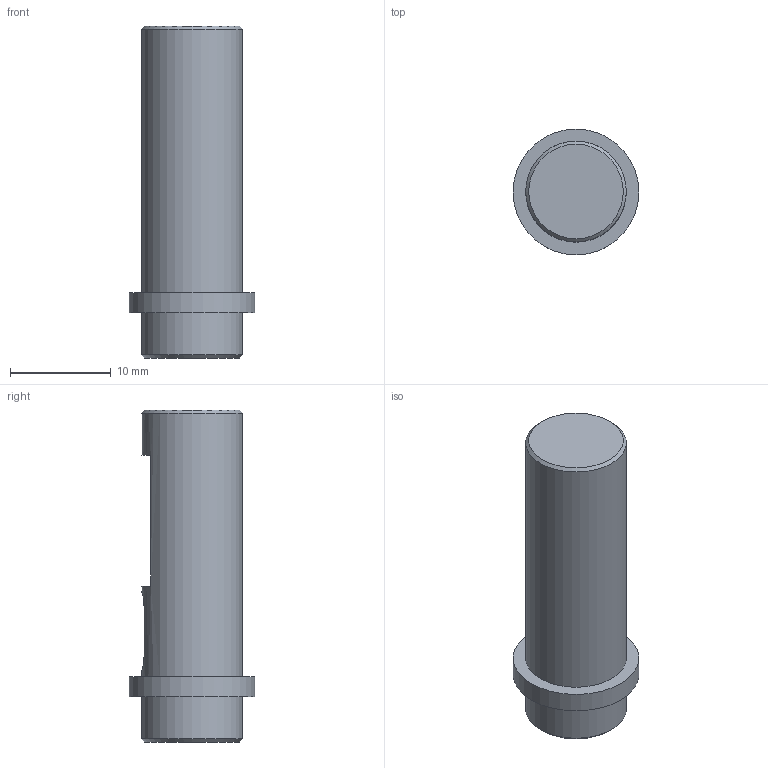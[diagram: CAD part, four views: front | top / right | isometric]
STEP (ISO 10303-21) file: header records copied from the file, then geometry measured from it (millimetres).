
FILE_DESCRIPTION(('Open CASCADE Model'),'2;1');
FILE_NAME('08_Shaft_Intermediate','2026-10-20T19:44:38',('Author'),( 'Open CASCADE'),'Open CASCADE STEP processor 8.0','build123d', 'Unknown');
FILE_SCHEMA(('AUTOMOTIVE_DESIGN { 1 0 10303 214 1 1 1 1 }'));
Length unit declared in the file: millimetre
Products named in the file (2): 08_Shaft_Intermediate
Assembly tree (1 placements, depth 2):
  08_Shaft_Intermediate
    08_Shaft_Intermediate
Bounding box: 12.5 x 12.5 x 33 mm (x, y, z)
Volume: 2593.7 mm3; surface area: 1320 mm2
Topology: 1 solids, 1 shells, 17 faces, 31 edges, 20 vertices
Faces by surface type: plane 10, cylinder 5, cone 2
Full cylindrical faces by diameter (mm): 10 x2, 12.5 x1
Entity records: 1020 total; most frequent: CARTESIAN_POINT 318, DIRECTION 123, ORIENTED_EDGE 62, PCURVE 62, DEFINITIONAL_REPRESENTATION 62, LINE 53, VECTOR 53, AXIS2_PLACEMENT_3D 31
